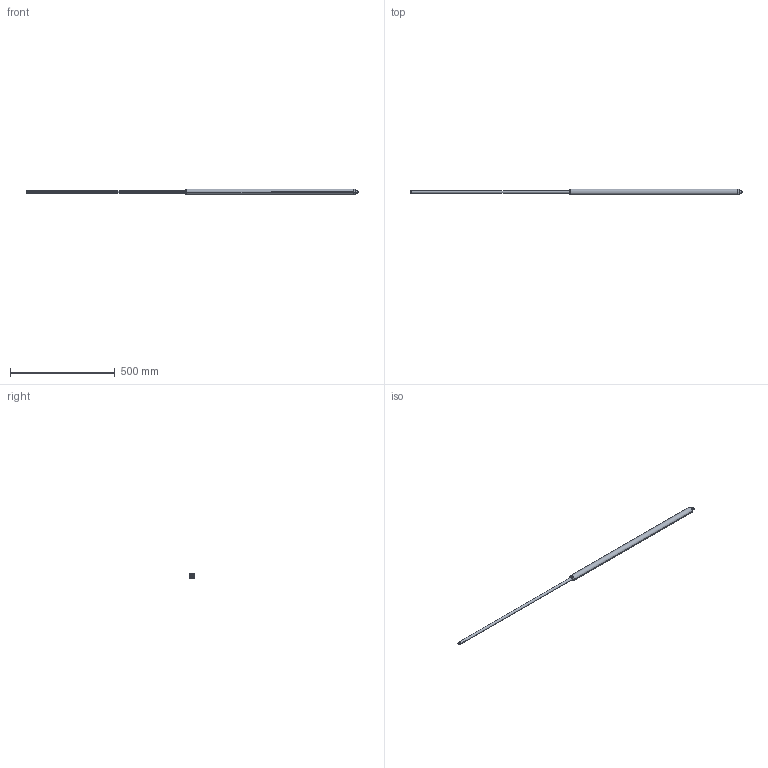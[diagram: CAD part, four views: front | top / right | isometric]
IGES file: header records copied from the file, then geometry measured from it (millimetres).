
Start section: SolidWorks IGES file using analytic representation for surfaces
Global section: file name: Z:\7-3D図面\01.図面\01.L\外形図\Ｇ／Ｓ\20170710(最新)\カタログ用\IGES\FGS-28-750-BB.IGS; native system: SolidWorks 2016; preprocessor: SolidWorks 2016; author: flgijutsu; date: 170710.171937; units: millimetre
Bounding box: 1584 x 28 x 28 mm (x, y, z)
Surface area: 105989.1 mm2 (no closed solid volume)
Topology: 0 solids, 0 shells, 23 faces, 328 edges, 328 vertices
Faces by surface type: revolution 14, bspline 9
